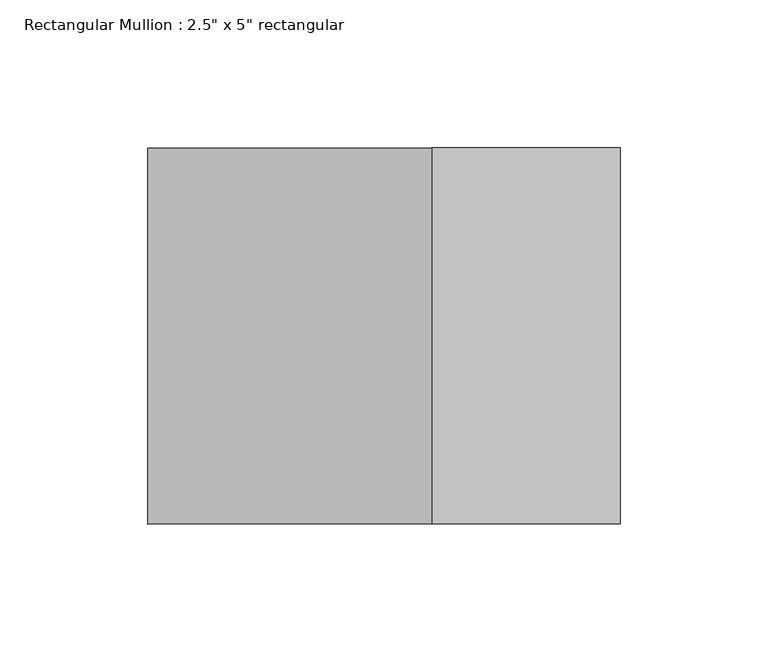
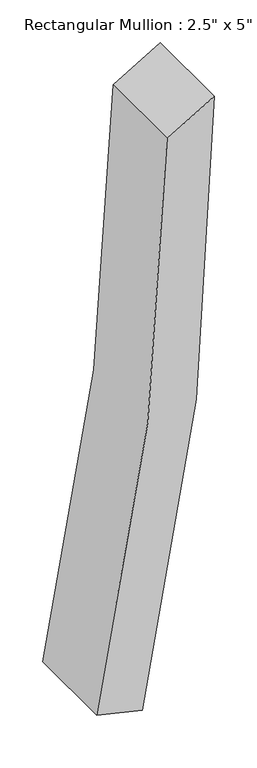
"""IFC4 building model written with IfcOpenShell, lengths in millimetres: member geometry."""

from ifc_helpers import new_model, si_unit, point, frame, frame_2d, origin, place, context, project, spatial, polyline, circle_curve, trimmed, segment, composite_curve, outline, extrude, source, transform, mapped, element, save


def member_b86862dd(model_context):
    return source(origin(), model_context, "Body", "SweptSolid", [
        extrude(outline(composite_curve([segment(trimmed(circle_curve(frame_2d((0.0, -3722.1588985)), 3722.1588985), [point((-847.5160214, -97.7715766))], [point((0.0, 0.0))], False, "CARTESIAN"), True, "CONTINUOUS"), segment(polyline([(0.0, 0.0), (-38.1860551, -63.6992827)]), True, "CONTINUOUS"), segment(trimmed(circle_curve(frame_2d((0.0, -3722.1588985)), 3658.6588985), [point((-38.1860551, -63.6992827))], [point((-833.0574051, -159.6035943))], True, "CARTESIAN"), True, "CONTINUOUS"), segment(polyline([(-833.0574051, -159.6035943), (-847.5160214, -97.7715766)]), True, "CONTINUOUS")], self_intersect=False)), frame((0.0, -63.5, 0.0), z_axis=(0.0, 1.0, 0.0), x_axis=(0.0, 0.0, 1.0)), (0.0, 0.0, 1.0), 127.0),
    ])


if __name__ == "__main__":
    model = new_model("IFC4")
    model_context = context("Model", 3, world=origin())
    ifc_project = project(units=[si_unit("LENGTHUNIT", "METRE", prefix="MILLI")], contexts=[model_context])
    site = spatial("IfcSite", under=ifc_project)
    building = spatial("IfcBuilding", under=site)
    placement = place(None, origin())
    member_shape = member_b86862dd(model_context)
    element("IfcMember", 1, ObjectType="Rectangular Mullion : 2.5\" x 5\" rectangular", at=placement, inside=building, context=model_context, shape_type="MappedRepresentation", body=[
        mapped(member_shape, transform((0.0, 0.0, 0.0), x_axis=(1.0, 0.0, 0.0), y_axis=(0.0, 1.0, 0.0), z_axis=(0.0, 0.0, 1.0))),
    ])
    save(model, "model.ifc")
